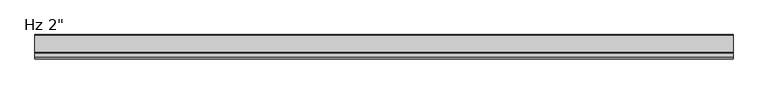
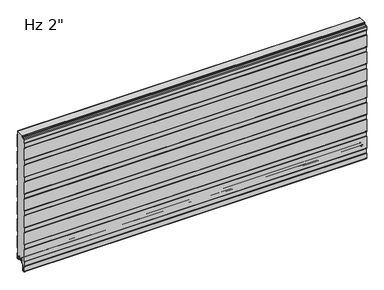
"""IFC4 building model written with IfcOpenShell, lengths in millimetres: plate geometry."""

from ifc_helpers import new_model, si_unit, point, frame, frame_2d, origin, place, context, project, spatial, polyline, circle_curve, trimmed, segment, composite_curve, outline, extrude, source, transform, mapped, element, save
from ifc_brep_helpers import plane_surface, cylinder_surface, revolved_surface, advanced_brep


def plate_3d0fb899(model_context):
    return source(origin(), model_context, "Body", "SolidModel", [
        extrude(outline(composite_curve([segment(trimmed(circle_curve(frame_2d((-22.5065589, 2.2313092)), 1.1999976), [point((-22.476037, 1.0316999))], [point((-21.3065623, 2.2328239))], True, "CARTESIAN"), True, "CONTINUOUS"), segment(polyline([(-21.3065623, 2.2328239), (-21.3065623, 5.9912173), (-22.7050411, 5.9912173), (-22.7050411, 8.6903283)]), True, "CONTINUOUS"), segment(trimmed(circle_curve(frame_2d((-26.0550364, 8.6903283)), 3.3499953), [point((-22.7050411, 8.6903283))], [point((-26.0550364, 12.0403236))], True, "CARTESIAN"), True, "CONTINUOUS"), segment(polyline([(-26.0550364, 12.0403236), (-30.4550276, 12.0403236)]), True, "CONTINUOUS"), segment(trimmed(circle_curve(frame_2d((-30.4550276, 8.6903283)), 3.3499953), [point((-30.4550276, 12.0403236))], [point((-33.8050229, 8.6903283))], True, "CARTESIAN"), True, "CONTINUOUS"), segment(polyline([(-33.8050229, 8.6903283), (-33.8050229, -3.1205608)]), True, "CONTINUOUS"), segment(trimmed(circle_curve(frame_2d((-35.5050175, -3.1205608)), 1.6999946), [point((-33.8050229, -3.1205608))], [point((-34.3029398, -4.3226385))], False, "CARTESIAN"), True, "CONTINUOUS"), segment(polyline([(-34.3029398, -4.3226385), (-39.8050109, -9.8247096), (-39.8050109, -31.9198392)]), True, "CONTINUOUS"), segment(trimmed(circle_curve(frame_2d((-42.5050035, -31.9198392)), 2.6999926), [point((-39.8050109, -31.9198392))], [point((-42.0236129, -34.5765709))], False, "CARTESIAN"), True, "CONTINUOUS"), segment(polyline([(-42.0236129, -34.5765709), (-47.0054338, -35.0125699)]), True, "CONTINUOUS"), segment(trimmed(circle_curve(frame_2d((-47.2295195, -32.4521176)), 2.5702393), [point((-47.0054338, -35.0125699))], [point((-49.7997587, -32.4521176))], False, "CARTESIAN"), True, "CONTINUOUS"), segment(polyline([(-49.7997587, -32.4521176), (-49.7997587, -10.4790962), (-48.5997902, -9.2791277), (-48.5997902, 10.4402849), (-49.8000209, 11.6405156), (-49.8000209, 65.7206473), (-48.5997902, 66.920878), (-48.5997902, 86.6402905), (-49.8000209, 87.8405213), (-49.8000209, 141.920653), (-48.5997902, 143.1208837), (-48.5997902, 162.8402962), (-49.8000209, 164.0405269), (-49.8000209, 218.1206587), (-48.5997902, 219.3208894), (-48.5997902, 239.0403019), (-49.8000209, 240.2405326), (-49.8000209, 294.3206644), (-48.5997902, 295.5208951), (-48.5997902, 315.2403076), (-49.8000209, 316.4405383), (-49.8000209, 370.5206701), (-48.5997902, 371.7209008), (-48.5997902, 391.4403133), (-49.8000209, 392.640544), (-49.8000209, 446.7206758), (-48.5997902, 447.9209065), (-48.5997902, 467.640319), (-49.8000209, 468.8405497), (-49.8000209, 522.9206815), (-48.5997902, 524.1209122), (-48.5997902, 543.8403247), (-49.805162, 545.0456965), (-49.805162, 561.1156233)]), True, "CONTINUOUS"), segment(trimmed(circle_curve(frame_2d((-47.8461404, 561.1156233)), 1.9590216), [point((-49.805162, 561.1156233))], [point((-48.0178238, 563.0671075))], False, "CARTESIAN"), True, "CONTINUOUS"), segment(polyline([(-48.0178238, 563.0671075), (-39.5591111, 563.821161)]), True, "CONTINUOUS"), segment(trimmed(circle_curve(frame_2d((-39.8231941, 566.8396267)), 3.0299959), [point((-39.5591111, 563.821161))], [point((-36.7958082, 566.9653654))], True, "CARTESIAN"), True, "CONTINUOUS"), segment(polyline([(-36.7958082, 566.9653654), (-36.7958082, 571.2), (-2.2065959, 571.2), (-2.2065959, 555.8186019), (-1.0063652, 554.4329689), (-1.0063652, 500.3795535), (-2.2065959, 498.9939206), (-2.2065959, 479.6187543), (-1.0063652, 478.2331213), (-1.0063652, 424.1797059), (-2.2065959, 422.794073), (-2.2065959, 403.4189067), (-1.0063652, 402.0332737), (-1.0063652, 347.9798583), (-2.2065959, 346.5942254), (-2.2065959, 327.2190591), (-1.0063652, 325.8334261), (-1.0063652, 271.7800107), (-2.2065959, 270.3943778), (-2.2065959, 251.0192115), (-1.0063652, 249.6335785), (-1.0063652, 195.5801631), (-2.2065959, 194.1945302), (-2.2065959, 174.8193639), (-1.0063652, 173.4337309), (-1.0063652, 119.3803155), (-2.2065959, 117.9946826), (-2.2065959, 98.6195163), (-1.0063652, 97.2338833), (-1.0063652, 43.1804679), (-2.2065959, 41.794835), (-2.2065959, 22.4196687), (-1.0063568, 21.034026), (-1.0063568, -3.4662506), (-5.2379042, -3.4662506)]), True, "CONTINUOUS"), segment(trimmed(circle_curve(frame_2d((-5.2379042, -1.6962564)), 1.7699942), [point((-5.2379042, -3.4662506))], [point((-7.0078983, -1.6962564))], False, "CARTESIAN"), True, "CONTINUOUS"), segment(polyline([(-7.0078983, -1.6962564), (-7.0078983, 8.7237222)]), True, "CONTINUOUS"), segment(trimmed(circle_curve(frame_2d((-10.3078942, 8.7237222)), 3.2999959), [point((-7.0078983, 8.7237222))], [point((-10.3078942, 12.023718))], True, "CARTESIAN"), True, "CONTINUOUS"), segment(polyline([(-10.3078942, 12.023718), (-14.7078854, 12.023718)]), True, "CONTINUOUS"), segment(trimmed(circle_curve(frame_2d((-14.7078854, 8.7237223)), 3.2999957), [point((-14.7078854, 12.023718))], [point((-18.0078811, 8.7237223))], True, "CARTESIAN"), True, "CONTINUOUS"), segment(polyline([(-18.0078811, 8.7237223), (-18.0078811, 6.0315125), (-19.0078757, 6.0315125), (-19.0078757, 2.0313089)]), True, "CONTINUOUS"), segment(trimmed(circle_curve(frame_2d((-18.0078785, 2.0313089)), 0.9999972), [point((-19.0078757, 2.0313089))], [point((-18.0078844, 1.0313117))], True, "CARTESIAN"), True, "CONTINUOUS"), segment(polyline([(-18.0078844, 1.0313117), (-19.0391961, 0.0), (-21.4443371, 0.0), (-22.476037, 1.0316999)]), True, "CONTINUOUS")], self_intersect=False)), frame((-730.0, 0.0, 0.0), z_axis=(1.0, 0.0, 0.0), x_axis=(0.0, 1.0, 0.0)), (0.0, 0.0, 1.0), 1460.0),
        advanced_brep(
        [(-730.0, -17.0015368, 2.0313088), (-730.0, -18.00154, 1.0313116), (-730.0, -19.0015313, 2.0313088), (-730.0, -19.0015314, 6.0315125), (-730.0, -18.0015368, 6.0315125), (-730.0, -18.0015368, 8.7237223), (-730.0, -14.7015411, 12.023718), (-730.0, -10.3015499, 12.023718), (-730.0, -7.0015544, 8.7237225), (-730.0, -7.0015544, -1.6962564), (-730.0, -5.2315602, -3.4662506), (-730.0, -1.0000126, -3.4662506), (-730.0, -1.0000126, 21.034026), (-730.0, -2.2002516, 22.4196686), (-730.0, -2.2002516, 41.7948349), (-730.0, -1.0000209, 43.1804679), (-730.0, -1.0000209, 97.2338833), (-730.0, -2.2002516, 98.6195162), (-730.0, -2.2002516, 117.9946825), (-730.0, -1.0000209, 119.3803155), (-730.0, -1.0000209, 173.4337309), (-730.0, -2.2002516, 174.8193638), (-730.0, -2.2002516, 194.1945301), (-730.0, -1.0000209, 195.5801631), (-730.0, -1.0000209, 249.6335785), (-730.0, -2.2002516, 251.0192114), (-730.0, -2.2002516, 270.3943777), (-730.0, -1.0000209, 271.7800107), (-730.0, -1.0000209, 325.8334261), (-730.0, -2.2002516, 327.219059), (-730.0, -2.2002516, 346.5942253), (-730.0, -1.0000209, 347.9798583), (-730.0, -1.0000209, 402.0332737), (-730.0, -2.2002516, 403.4189066), (-730.0, -2.2002516, 422.7940729), (-730.0, -1.0000209, 424.1797059), (-730.0, -1.0000209, 478.2331213), (-730.0, -2.2002516, 479.6187542), (-730.0, -2.2002516, 498.9939205), (-730.0, -1.0000209, 500.3795535), (-730.0, -1.0000209, 554.4329689), (-730.0, -2.2002516, 555.8186018), (-730.0, -2.2002516, 571.2), (-730.0, -1.2002516, 571.2), (-730.0, -1.2002516, 556.1914823), (-730.0, -0.3418094, 555.2004346), (-730.0, -2.09e-05, 554.2838177), (-730.0, -2.09e-05, 500.5287046), (-730.0, -0.3418094, 499.6120877), (-730.0, -1.2002516, 498.6210401), (-730.0, -1.2002516, 479.9916347), (-730.0, -0.3418094, 479.000587), (-730.0, -2.09e-05, 478.0839701), (-730.0, -2.09e-05, 424.328857), (-730.0, -0.3418094, 423.4122401), (-730.0, -1.2002516, 422.4211925), (-730.0, -1.2002516, 403.7917871), (-730.0, -0.3418094, 402.8007394), (-730.0, -2.09e-05, 401.8841225), (-730.0, -2.09e-05, 348.1290094), (-730.0, -0.3418094, 347.2123925), (-730.0, -1.2002516, 346.2213449), (-730.0, -1.2002516, 327.5919395), (-730.0, -0.3418094, 326.6008918), (-730.0, -2.09e-05, 325.6842749), (-730.0, -2.09e-05, 271.9291618), (-730.0, -0.3418094, 271.0125449), (-730.0, -1.2002516, 270.0214973), (-730.0, -1.2002516, 251.3920919), (-730.0, -0.3418094, 250.4010442), (-730.0, -2.09e-05, 249.4844273), (-730.0, -2.09e-05, 195.7293142), (-730.0, -0.3418094, 194.8126973), (-730.0, -1.2002516, 193.8216497), (-730.0, -1.2002516, 175.1922443), (-730.0, -0.3418094, 174.2011966), (-730.0, -2.09e-05, 173.2845797), (-730.0, -2.09e-05, 119.5294666), (-730.0, -0.3418094, 118.6128497), (-730.0, -1.2002516, 117.6218021), (-730.0, -1.2002516, 98.9923967), (-730.0, -0.3418094, 98.001349), (-730.0, -2.09e-05, 97.0847321), (-730.0, -2.09e-05, 43.329619), (-730.0, -0.3418094, 42.4130021), (-730.0, -1.2002516, 41.4219545), (-730.0, -1.2002516, 22.7925491), (-730.0, -0.3418094, 21.8015014), (-730.0, -2.09e-05, 20.8847931), (-730.0, -1.26e-05, -3.0662545), (-730.0, -1.4000087, -4.4662506), (-730.0, -5.2315602, -4.4662506), (-730.0, -8.0015544, -1.6962564), (-730.0, -8.0015544, 8.7237225), (-730.0, -10.3015499, 11.023718), (-730.0, -14.7015411, 11.023718), (-730.0, -17.0015368, 8.7237223), (730.0, -17.0015368, 2.0313088), (730.0, -17.0015368, 8.7237223), (730.0, -14.7015411, 11.023718), (730.0, -10.3015499, 11.023718), (730.0, -8.0015544, 8.7237225), (730.0, -8.0015544, -1.6962564), (730.0, -5.2315602, -4.4662506), (730.0, -1.4000087, -4.4662506), (730.0, -1.26e-05, -3.0662545), (730.0, -1.26e-05, 20.8848845), (730.0, -0.3418094, 21.8015014), (730.0, -1.2002516, 22.7925491), (730.0, -1.2002516, 41.4219545), (730.0, -0.3418094, 42.4130021), (730.0, -2.09e-05, 43.329619), (730.0, -2.09e-05, 97.0847321), (730.0, -0.3418094, 98.001349), (730.0, -1.2002516, 98.9923967), (730.0, -1.2002516, 117.6218021), (730.0, -0.3418094, 118.6128497), (730.0, -2.09e-05, 119.5294666), (730.0, -2.09e-05, 173.2845797), (730.0, -0.3418094, 174.2011966), (730.0, -1.2002516, 175.1922443), (730.0, -1.2002516, 193.8216497), (730.0, -0.3418094, 194.8126973), (730.0, -2.09e-05, 195.7293142), (730.0, -2.09e-05, 249.4844273), (730.0, -0.3418094, 250.4010442), (730.0, -1.2002516, 251.3920919), (730.0, -1.2002516, 270.0214973), (730.0, -0.3418094, 271.0125449), (730.0, -2.09e-05, 271.9291618), (730.0, -2.09e-05, 325.6842749), (730.0, -0.3418094, 326.6008918), (730.0, -1.2002516, 327.5919395), (730.0, -1.2002516, 346.2213449), (730.0, -0.3418094, 347.2123925), (730.0, -2.09e-05, 348.1290094), (730.0, -2.09e-05, 401.8841225), (730.0, -0.3418094, 402.8007394), (730.0, -1.2002516, 403.7917871), (730.0, -1.2002516, 422.4211925), (730.0, -0.3418094, 423.4122401), (730.0, -2.09e-05, 424.328857), (730.0, -2.09e-05, 478.0839701), (730.0, -0.3418094, 479.000587), (730.0, -1.2002516, 479.9916347), (730.0, -1.2002516, 498.6210401), (730.0, -0.3418094, 499.6120877), (730.0, -2.09e-05, 500.5287046), (730.0, -2.09e-05, 554.2838177), (730.0, -0.3418094, 555.2004346), (730.0, -1.2002516, 556.1914823), (730.0, -1.2002516, 571.2), (730.0, -2.2002516, 571.2), (730.0, -2.2002516, 555.8186018), (730.0, -1.0000209, 554.4329689), (730.0, -1.0000209, 500.3795535), (730.0, -2.2002516, 498.9939205), (730.0, -2.2002516, 479.6187542), (730.0, -1.0000209, 478.2331213), (730.0, -1.0000209, 424.1797059), (730.0, -2.2002516, 422.7940729), (730.0, -2.2002516, 403.4189066), (730.0, -1.0000209, 402.0332737), (730.0, -1.0000209, 347.9798583), (730.0, -2.2002516, 346.5942253), (730.0, -2.2002516, 327.219059), (730.0, -1.0000209, 325.8334261), (730.0, -1.0000209, 271.7800107), (730.0, -2.2002516, 270.3943777), (730.0, -2.2002516, 251.0192114), (730.0, -1.0000209, 249.6335785), (730.0, -1.0000209, 195.5801631), (730.0, -2.2002516, 194.1945301), (730.0, -2.2002516, 174.8193638), (730.0, -1.0000209, 173.4337309), (730.0, -1.0000209, 119.3803155), (730.0, -2.2002516, 117.9946825), (730.0, -2.2002516, 98.6195162), (730.0, -1.0000209, 97.2338833), (730.0, -1.0000209, 43.1804679), (730.0, -2.2002516, 41.7948349), (730.0, -2.2002516, 22.4196686), (730.0, -1.0000126, 21.034026), (730.0, -1.0000126, -3.4662506), (730.0, -5.2315602, -3.4662506), (730.0, -7.0015544, -1.6962564), (730.0, -7.0015544, 8.7237225), (730.0, -10.3015499, 12.023718), (730.0, -14.7015411, 12.023718), (730.0, -18.0015368, 8.7237223), (730.0, -18.0015368, 6.0315125), (730.0, -19.0015314, 6.0315125), (730.0, -19.0015314, 2.0313088), (730.0, -18.00154, 1.0313116)],
        [
            (0, 1, circle_curve(frame((-730.0, -18.0015341, 2.0313088), z_axis=(-1.0, 0.0, 0.0), x_axis=(0.0, 0.0, 1.0)), 0.9999973)),
            (1, 2, circle_curve(frame((-730.0, -18.0015341, 2.0313088), z_axis=(-1.0, 0.0, 0.0), x_axis=(0.0, 0.0, 1.0)), 0.9999972)),
            (2, 3),
            (3, 4),
            (4, 5),
            (5, 6, circle_curve(frame((-730.0, -14.7015411, 8.7237223), z_axis=(-1.0, 0.0, 0.0), x_axis=(0.0, 0.0, 1.0)), 3.2999957)),
            (6, 7),
            (7, 8, circle_curve(frame((-730.0, -10.3015499, 8.7237225), z_axis=(-1.0, 0.0, 0.0), x_axis=(0.0, 0.0, 1.0)), 3.2999955)),
            (8, 9),
            (9, 10, circle_curve(frame((-730.0, -5.2315602, -1.6962564), z_axis=(1.0, 0.0, 0.0), x_axis=(0.0, 0.0, 1.0)), 1.7699942)),
            (10, 11),
            (11, 12),
            (12, 13),
            (13, 14),
            (14, 15),
            (15, 16),
            (16, 17),
            (17, 18),
            (18, 19),
            (19, 20),
            (20, 21),
            (21, 22),
            (22, 23),
            (23, 24),
            (24, 25),
            (25, 26),
            (26, 27),
            (27, 28),
            (28, 29),
            (29, 30),
            (30, 31),
            (31, 32),
            (32, 33),
            (33, 34),
            (34, 35),
            (35, 36),
            (36, 37),
            (37, 38),
            (38, 39),
            (39, 40),
            (40, 41),
            (41, 42),
            (42, 43),
            (43, 44),
            (44, 45),
            (45, 46, circle_curve(frame((-730.0, -1.4000181, 554.2838177), z_axis=(-1.0, 0.0, 0.0), x_axis=(0.0, 0.0, 1.0)), 1.3999972)),
            (46, 47),
            (47, 48, circle_curve(frame((-730.0, -1.4000181, 500.5287046), z_axis=(-1.0, 0.0, 0.0), x_axis=(0.0, 0.0, 1.0)), 1.3999972)),
            (48, 49),
            (49, 50),
            (50, 51),
            (51, 52, circle_curve(frame((-730.0, -1.4000181, 478.0839701), z_axis=(-1.0, 0.0, 0.0), x_axis=(0.0, 0.0, 1.0)), 1.3999972)),
            (52, 53),
            (53, 54, circle_curve(frame((-730.0, -1.4000181, 424.328857), z_axis=(-1.0, 0.0, 0.0), x_axis=(0.0, 0.0, 1.0)), 1.3999972)),
            (54, 55),
            (55, 56),
            (56, 57),
            (57, 58, circle_curve(frame((-730.0, -1.4000181, 401.8841225), z_axis=(-1.0, 0.0, 0.0), x_axis=(0.0, 0.0, 1.0)), 1.3999972)),
            (58, 59),
            (59, 60, circle_curve(frame((-730.0, -1.4000181, 348.1290094), z_axis=(-1.0, 0.0, 0.0), x_axis=(0.0, 0.0, 1.0)), 1.3999972)),
            (60, 61),
            (61, 62),
            (62, 63),
            (63, 64, circle_curve(frame((-730.0, -1.4000181, 325.6842749), z_axis=(-1.0, 0.0, 0.0), x_axis=(0.0, 0.0, 1.0)), 1.3999972)),
            (64, 65),
            (65, 66, circle_curve(frame((-730.0, -1.4000181, 271.9291618), z_axis=(-1.0, 0.0, 0.0), x_axis=(0.0, 0.0, 1.0)), 1.3999972)),
            (66, 67),
            (67, 68),
            (68, 69),
            (69, 70, circle_curve(frame((-730.0, -1.4000181, 249.4844273), z_axis=(-1.0, 0.0, 0.0), x_axis=(0.0, 0.0, 1.0)), 1.3999972)),
            (70, 71),
            (71, 72, circle_curve(frame((-730.0, -1.4000181, 195.7293142), z_axis=(-1.0, 0.0, 0.0), x_axis=(0.0, 0.0, 1.0)), 1.3999972)),
            (72, 73),
            (73, 74),
            (74, 75),
            (75, 76, circle_curve(frame((-730.0, -1.4000181, 173.2845797), z_axis=(-1.0, 0.0, 0.0), x_axis=(0.0, 0.0, 1.0)), 1.3999972)),
            (76, 77),
            (77, 78, circle_curve(frame((-730.0, -1.4000181, 119.5294666), z_axis=(-1.0, 0.0, 0.0), x_axis=(0.0, 0.0, 1.0)), 1.3999972)),
            (78, 79),
            (79, 80),
            (80, 81),
            (81, 82, circle_curve(frame((-730.0, -1.4000181, 97.0847321), z_axis=(-1.0, 0.0, 0.0), x_axis=(0.0, 0.0, 1.0)), 1.3999972)),
            (82, 83),
            (83, 84, circle_curve(frame((-730.0, -1.4000181, 43.329619), z_axis=(-1.0, 0.0, 0.0), x_axis=(0.0, 0.0, 1.0)), 1.3999972)),
            (84, 85),
            (85, 86),
            (86, 87),
            (87, 88, circle_curve(frame((-730.0, -1.4000181, 20.8848845), z_axis=(-1.0, 0.0, 0.0), x_axis=(0.0, 0.0, 1.0)), 1.3999972)),
            (88, 89),
            (89, 90, circle_curve(frame((-730.0, -1.4000087, -3.0662545), z_axis=(-1.0, 0.0, 0.0), x_axis=(0.0, 0.0, 1.0)), 1.3999962)),
            (90, 91),
            (91, 92, circle_curve(frame((-730.0, -5.2315602, -1.6962564), z_axis=(-1.0, 0.0, 0.0), x_axis=(0.0, 0.0, 1.0)), 2.7699942)),
            (92, 93),
            (93, 94, circle_curve(frame((-730.0, -10.3015499, 8.7237225), z_axis=(1.0, 0.0, 0.0), x_axis=(0.0, 0.0, 1.0)), 2.2999955)),
            (94, 95),
            (95, 96, circle_curve(frame((-730.0, -14.7015411, 8.7237223), z_axis=(1.0, 0.0, 0.0), x_axis=(0.0, 0.0, 1.0)), 2.2999957)),
            (96, 0),
            (97, 98),
            (98, 99, circle_curve(frame((730.0, -14.7015411, 8.7237223), z_axis=(-1.0, 0.0, 0.0), x_axis=(0.0, 0.0, 1.0)), 2.2999957)),
            (99, 100),
            (100, 101, circle_curve(frame((730.0, -10.3015499, 8.7237225), z_axis=(-1.0, 0.0, 0.0), x_axis=(0.0, 0.0, 1.0)), 2.2999955)),
            (101, 102),
            (102, 103, circle_curve(frame((730.0, -5.2315602, -1.6962564), z_axis=(1.0, 0.0, 0.0), x_axis=(0.0, 0.0, 1.0)), 2.7699942)),
            (103, 104),
            (104, 105, circle_curve(frame((730.0, -1.4000087, -3.0662545), z_axis=(1.0, 0.0, 0.0), x_axis=(0.0, 0.0, 1.0)), 1.3999962)),
            (105, 106),
            (106, 107, circle_curve(frame((730.0, -1.4000181, 20.8848845), z_axis=(1.0, 0.0, 0.0), x_axis=(0.0, 0.0, 1.0)), 1.3999972)),
            (107, 108),
            (108, 109),
            (109, 110),
            (110, 111, circle_curve(frame((730.0, -1.4000181, 43.329619), z_axis=(1.0, 0.0, 0.0), x_axis=(0.0, 0.0, 1.0)), 1.3999972)),
            (111, 112),
            (112, 113, circle_curve(frame((730.0, -1.4000181, 97.0847321), z_axis=(1.0, 0.0, 0.0), x_axis=(0.0, 0.0, 1.0)), 1.3999972)),
            (113, 114),
            (114, 115),
            (115, 116),
            (116, 117, circle_curve(frame((730.0, -1.4000181, 119.5294666), z_axis=(1.0, 0.0, 0.0), x_axis=(0.0, 0.0, 1.0)), 1.3999972)),
            (117, 118),
            (118, 119, circle_curve(frame((730.0, -1.4000181, 173.2845797), z_axis=(1.0, 0.0, 0.0), x_axis=(0.0, 0.0, 1.0)), 1.3999972)),
            (119, 120),
            (120, 121),
            (121, 122),
            (122, 123, circle_curve(frame((730.0, -1.4000181, 195.7293142), z_axis=(1.0, 0.0, 0.0), x_axis=(0.0, 0.0, 1.0)), 1.3999972)),
            (123, 124),
            (124, 125, circle_curve(frame((730.0, -1.4000181, 249.4844273), z_axis=(1.0, 0.0, 0.0), x_axis=(0.0, 0.0, 1.0)), 1.3999972)),
            (125, 126),
            (126, 127),
            (127, 128),
            (128, 129, circle_curve(frame((730.0, -1.4000181, 271.9291618), z_axis=(1.0, 0.0, 0.0), x_axis=(0.0, 0.0, 1.0)), 1.3999972)),
            (129, 130),
            (130, 131, circle_curve(frame((730.0, -1.4000181, 325.6842749), z_axis=(1.0, 0.0, 0.0), x_axis=(0.0, 0.0, 1.0)), 1.3999972)),
            (131, 132),
            (132, 133),
            (133, 134),
            (134, 135, circle_curve(frame((730.0, -1.4000181, 348.1290094), z_axis=(1.0, 0.0, 0.0), x_axis=(0.0, 0.0, 1.0)), 1.3999972)),
            (135, 136),
            (136, 137, circle_curve(frame((730.0, -1.4000181, 401.8841225), z_axis=(1.0, 0.0, 0.0), x_axis=(0.0, 0.0, 1.0)), 1.3999972)),
            (137, 138),
            (138, 139),
            (139, 140),
            (140, 141, circle_curve(frame((730.0, -1.4000181, 424.328857), z_axis=(1.0, 0.0, 0.0), x_axis=(0.0, 0.0, 1.0)), 1.3999972)),
            (141, 142),
            (142, 143, circle_curve(frame((730.0, -1.4000181, 478.0839701), z_axis=(1.0, 0.0, 0.0), x_axis=(0.0, 0.0, 1.0)), 1.3999972)),
            (143, 144),
            (144, 145),
            (145, 146),
            (146, 147, circle_curve(frame((730.0, -1.4000181, 500.5287046), z_axis=(1.0, 0.0, 0.0), x_axis=(0.0, 0.0, 1.0)), 1.3999972)),
            (147, 148),
            (148, 149, circle_curve(frame((730.0, -1.4000181, 554.2838177), z_axis=(1.0, 0.0, 0.0), x_axis=(0.0, 0.0, 1.0)), 1.3999972)),
            (149, 150),
            (150, 151),
            (151, 152),
            (152, 153),
            (153, 154),
            (154, 155),
            (155, 156),
            (156, 157),
            (157, 158),
            (158, 159),
            (159, 160),
            (160, 161),
            (161, 162),
            (162, 163),
            (163, 164),
            (164, 165),
            (165, 166),
            (166, 167),
            (167, 168),
            (168, 169),
            (169, 170),
            (170, 171),
            (171, 172),
            (172, 173),
            (173, 174),
            (174, 175),
            (175, 176),
            (176, 177),
            (177, 178),
            (178, 179),
            (179, 180),
            (180, 181),
            (181, 182),
            (182, 183),
            (183, 184),
            (184, 185, circle_curve(frame((730.0, -5.2315602, -1.6962564), z_axis=(-1.0, 0.0, 0.0), x_axis=(0.0, 0.0, 1.0)), 1.7699942)),
            (185, 186),
            (186, 187, circle_curve(frame((730.0, -10.3015499, 8.7237225), z_axis=(1.0, 0.0, 0.0), x_axis=(0.0, 0.0, 1.0)), 3.2999955)),
            (187, 188),
            (188, 189, circle_curve(frame((730.0, -14.7015411, 8.7237223), z_axis=(1.0, 0.0, 0.0), x_axis=(0.0, 0.0, 1.0)), 3.2999957)),
            (189, 190),
            (190, 191),
            (191, 192),
            (192, 193, circle_curve(frame((730.0, -18.0015341, 2.0313088), z_axis=(1.0, 0.0, 0.0), x_axis=(0.0, 0.0, 1.0)), 0.9999972)),
            (193, 97, circle_curve(frame((730.0, -18.0015341, 2.0313088), z_axis=(1.0, 0.0, 0.0), x_axis=(0.0, 0.0, 1.0)), 0.9999973)),
            (96, 98),
            (97, 0),
            (95, 99),
            (94, 100),
            (93, 101),
            (92, 102),
            (91, 103),
            (90, 104),
            (89, 105),
            (88, 106),
            (70, 124),
            (123, 71),
            (87, 107),
            (86, 108),
            (85, 109),
            (83, 111),
            (110, 84),
            (81, 113),
            (112, 82),
            (66, 128),
            (127, 67),
            (122, 72),
            (121, 73),
            (76, 118),
            (117, 77),
            (69, 125),
            (68, 126),
            (65, 129),
            (116, 78),
            (79, 115),
            (114, 80),
            (75, 119),
            (74, 120),
            (2, 192),
            (191, 3),
            (1, 193),
            (64, 130),
            (63, 131),
            (62, 132),
            (61, 133),
            (60, 134),
            (59, 135),
            (58, 136),
            (31, 163),
            (162, 32),
            (30, 164),
            (29, 165),
            (28, 166),
            (27, 167),
            (26, 168),
            (25, 169),
            (24, 170),
            (23, 171),
            (22, 172),
            (21, 173),
            (20, 174),
            (19, 175),
            (18, 176),
            (17, 177),
            (16, 178),
            (15, 179),
            (14, 180),
            (13, 181),
            (12, 182),
            (11, 183),
            (10, 184),
            (9, 185),
            (8, 186),
            (7, 187),
            (6, 188),
            (5, 189),
            (4, 190),
            (42, 152),
            (151, 43),
            (55, 139),
            (138, 56),
            (54, 140),
            (52, 142),
            (141, 53),
            (49, 145),
            (144, 50),
            (48, 146),
            (46, 148),
            (147, 47),
            (44, 150),
            (149, 45),
            (35, 159),
            (158, 36),
            (34, 160),
            (33, 161),
            (57, 137),
            (51, 143),
            (41, 153),
            (40, 154),
            (39, 155),
            (38, 156),
            (37, 157),
        ],
        [
            plane_surface(frame((-730.0, -2.09e-05, 304.8), z_axis=(-1.0, 0.0, 0.0), x_axis=(0.0, 1.0, 0.0))),
            plane_surface(frame((730.0, -2.09e-05, 304.8), z_axis=(1.0, 0.0, 0.0), x_axis=(0.0, 1.0, 0.0))),
            plane_surface(frame((-730.0, -17.0015368, 2.0313088), z_axis=(0.0, 1.0, 0.0), x_axis=(1.0, 0.0, 0.0))),
            revolved_surface(polyline([(730.0, -14.7015411, 11.023718), (-730.0, -14.7015411, 11.023718)]), (-730.0, -14.7015411, 8.7237223), (1.0, 0.0, 0.0)),
            plane_surface(frame((-730.0, -14.7015411, 11.023718), z_axis=(0.0, 0.0, -1.0), x_axis=(1.0, 0.0, 0.0))),
            revolved_surface(polyline([(730.0, -10.3015499, 11.023717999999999), (-730.0, -10.3015499, 11.023717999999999)]), (-730.0, -10.3015499, 8.7237225), (1.0, 0.0, 0.0)),
            plane_surface(frame((-730.0, -8.0015544, 8.7237225), z_axis=(0.0, -1.0, 0.0), x_axis=(1.0, 0.0, 0.0))),
            cylinder_surface(frame((-730.0, -5.2315602, -1.6962564), z_axis=(-1.0, 0.0, 0.0), x_axis=(0.0, 0.0, 1.0)), 2.7699942),
            plane_surface(frame((-730.0, -5.2315602, -4.4662506), z_axis=(0.0, 0.0, -1.0), x_axis=(1.0, 0.0, 0.0))),
            cylinder_surface(frame((-730.0, -1.4000087, -3.0662545), z_axis=(-1.0, 0.0, 0.0), x_axis=(0.0, 0.0, 1.0)), 1.3999962),
            plane_surface(frame((-730.0, -1.26e-05, -3.0662545), z_axis=(0.0, 1.0, 0.0), x_axis=(1.0, 0.0, 0.0))),
            plane_surface(frame((-730.0, -2.09e-05, 195.7293142), z_axis=(0.0, 1.0, 0.0), x_axis=(1.0, 0.0, 0.0))),
            cylinder_surface(frame((-730.0, -1.4000181, 20.8848845), z_axis=(-1.0, 0.0, 0.0), x_axis=(0.0, 0.0, 1.0)), 1.3999972),
            plane_surface(frame((-730.0, -0.3418094, 21.8015014), z_axis=(0.0, 0.755864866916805, 0.6547276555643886), x_axis=(1.0, 0.0, 0.0))),
            plane_surface(frame((-730.0, -1.2002516, 32.1072518), z_axis=(0.0, 1.0, 0.0), x_axis=(1.0, 0.0, 0.0))),
            cylinder_surface(frame((-730.0, -1.4000181, 43.329619), z_axis=(-1.0, 0.0, 0.0), x_axis=(0.0, 0.0, 1.0)), 1.3999972),
            plane_surface(frame((-730.0, -1.2002516, 41.4219545), z_axis=(0.0, 0.755864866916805, -0.6547276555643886), x_axis=(1.0, 0.0, 0.0))),
            cylinder_surface(frame((-730.0, -1.4000181, 97.0847321), z_axis=(-1.0, 0.0, 0.0), x_axis=(0.0, 0.0, 1.0)), 1.3999972),
            plane_surface(frame((-730.0, -1.2002516, 270.0214973), z_axis=(0.0, 0.755864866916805, -0.6547276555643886), x_axis=(1.0, 0.0, 0.0))),
            cylinder_surface(frame((-730.0, -1.4000181, 195.7293142), z_axis=(-1.0, 0.0, 0.0), x_axis=(0.0, 0.0, 1.0)), 1.3999972),
            plane_surface(frame((-730.0, -1.2002516, 193.8216497), z_axis=(0.0, 0.755864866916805, -0.6547276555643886), x_axis=(1.0, 0.0, 0.0))),
            plane_surface(frame((-730.0, -2.09e-05, 119.5294666), z_axis=(0.0, 1.0, 0.0), x_axis=(1.0, 0.0, 0.0))),
            cylinder_surface(frame((-730.0, -1.4000181, 249.4844273), z_axis=(-1.0, 0.0, 0.0), x_axis=(0.0, 0.0, 1.0)), 1.3999972),
            plane_surface(frame((-730.0, -0.3418094, 250.4010442), z_axis=(0.0, 0.755864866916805, 0.6547276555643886), x_axis=(1.0, 0.0, 0.0))),
            plane_surface(frame((-730.0, -1.2002516, 260.7067946), z_axis=(0.0, 1.0, 0.0), x_axis=(1.0, 0.0, 0.0))),
            cylinder_surface(frame((-730.0, -1.4000181, 271.9291618), z_axis=(-1.0, 0.0, 0.0), x_axis=(0.0, 0.0, 1.0)), 1.3999972),
            cylinder_surface(frame((-730.0, -1.4000181, 119.5294666), z_axis=(-1.0, 0.0, 0.0), x_axis=(0.0, 0.0, 1.0)), 1.3999972),
            plane_surface(frame((-730.0, -1.2002516, 108.3070994), z_axis=(0.0, 1.0, 0.0), x_axis=(1.0, 0.0, 0.0))),
            plane_surface(frame((-730.0, -0.3418094, 98.001349), z_axis=(0.0, 0.755864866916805, 0.6547276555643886), x_axis=(1.0, 0.0, 0.0))),
            plane_surface(frame((-730.0, -1.2002516, 117.6218021), z_axis=(0.0, 0.755864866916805, -0.6547276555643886), x_axis=(1.0, 0.0, 0.0))),
            plane_surface(frame((-730.0, -2.09e-05, 43.329619), z_axis=(0.0, 1.0, 0.0), x_axis=(1.0, 0.0, 0.0))),
            cylinder_surface(frame((-730.0, -1.4000181, 173.2845797), z_axis=(-1.0, 0.0, 0.0), x_axis=(0.0, 0.0, 1.0)), 1.3999972),
            plane_surface(frame((-730.0, -0.3418094, 174.2011966), z_axis=(0.0, 0.755864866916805, 0.6547276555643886), x_axis=(1.0, 0.0, 0.0))),
            plane_surface(frame((-730.0, -1.2002516, 184.506947), z_axis=(0.0, 1.0, 0.0), x_axis=(1.0, 0.0, 0.0))),
            plane_surface(frame((-730.0, -19.0015314, 6.0315125), z_axis=(0.0, -1.0, 0.0), x_axis=(1.0, 0.0, 0.0))),
            cylinder_surface(frame((-730.0, -18.0015341, 2.0313088), z_axis=(-1.0, 0.0, 0.0), x_axis=(0.0, 0.0, 1.0)), 0.9999972),
            cylinder_surface(frame((-730.0, -18.0015341, 2.0313088), z_axis=(-1.0, 0.0, 0.0), x_axis=(0.0, 0.0, 1.0)), 0.9999973),
            plane_surface(frame((-730.0, -2.09e-05, 271.9291618), z_axis=(0.0, 1.0, 0.0), x_axis=(1.0, 0.0, 0.0))),
            cylinder_surface(frame((-730.0, -1.4000181, 325.6842749), z_axis=(-1.0, 0.0, 0.0), x_axis=(0.0, 0.0, 1.0)), 1.3999972),
            plane_surface(frame((-730.0, -0.3418094, 326.6008918), z_axis=(0.0, 0.755864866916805, 0.6547276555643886), x_axis=(1.0, 0.0, 0.0))),
            plane_surface(frame((-730.0, -1.2002516, 336.9066422), z_axis=(0.0, 1.0, 0.0), x_axis=(1.0, 0.0, 0.0))),
            plane_surface(frame((-730.0, -1.2002516, 346.2213449), z_axis=(0.0, 0.755864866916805, -0.6547276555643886), x_axis=(1.0, 0.0, 0.0))),
            cylinder_surface(frame((-730.0, -1.4000181, 348.1290094), z_axis=(-1.0, 0.0, 0.0), x_axis=(0.0, 0.0, 1.0)), 1.3999972),
            plane_surface(frame((-730.0, -2.09e-05, 348.1290094), z_axis=(0.0, 1.0, 0.0), x_axis=(1.0, 0.0, 0.0))),
            plane_surface(frame((-730.0, -1.0000209, 402.0332737), z_axis=(0.0, -1.0, 0.0), x_axis=(1.0, 0.0, 0.0))),
            plane_surface(frame((-730.0, -1.0000209, 347.9798583), z_axis=(0.0, -0.755864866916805, 0.6547276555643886), x_axis=(1.0, 0.0, 0.0))),
            plane_surface(frame((-730.0, -2.2002516, 346.5942253), z_axis=(0.0, -1.0, 0.0), x_axis=(1.0, 0.0, 0.0))),
            plane_surface(frame((-730.0, -2.2002516, 327.219059), z_axis=(0.0, -0.755864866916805, -0.6547276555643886), x_axis=(1.0, 0.0, 0.0))),
            plane_surface(frame((-730.0, -1.0000209, 325.8334261), z_axis=(0.0, -1.0, 0.0), x_axis=(1.0, 0.0, 0.0))),
            plane_surface(frame((-730.0, -1.0000209, 271.7800107), z_axis=(0.0, -0.755864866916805, 0.6547276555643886), x_axis=(1.0, 0.0, 0.0))),
            plane_surface(frame((-730.0, -2.2002516, 270.3943777), z_axis=(0.0, -1.0, 0.0), x_axis=(1.0, 0.0, 0.0))),
            plane_surface(frame((-730.0, -2.2002516, 251.0192114), z_axis=(0.0, -0.755864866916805, -0.6547276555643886), x_axis=(1.0, 0.0, 0.0))),
            plane_surface(frame((-730.0, -1.0000209, 249.6335785), z_axis=(0.0, -1.0, 0.0), x_axis=(1.0, 0.0, 0.0))),
            plane_surface(frame((-730.0, -1.0000209, 195.5801631), z_axis=(0.0, -0.755864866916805, 0.6547276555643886), x_axis=(1.0, 0.0, 0.0))),
            plane_surface(frame((-730.0, -2.2002516, 194.1945301), z_axis=(0.0, -1.0, 0.0), x_axis=(1.0, 0.0, 0.0))),
            plane_surface(frame((-730.0, -2.2002516, 174.8193638), z_axis=(0.0, -0.755864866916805, -0.6547276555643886), x_axis=(1.0, 0.0, 0.0))),
            plane_surface(frame((-730.0, -1.0000209, 173.4337309), z_axis=(0.0, -1.0, 0.0), x_axis=(1.0, 0.0, 0.0))),
            plane_surface(frame((-730.0, -1.0000209, 119.3803155), z_axis=(0.0, -0.755864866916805, 0.6547276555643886), x_axis=(1.0, 0.0, 0.0))),
            plane_surface(frame((-730.0, -2.2002516, 117.9946825), z_axis=(0.0, -1.0, 0.0), x_axis=(1.0, 0.0, 0.0))),
            plane_surface(frame((-730.0, -2.2002516, 98.6195162), z_axis=(0.0, -0.755864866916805, -0.6547276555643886), x_axis=(1.0, 0.0, 0.0))),
            plane_surface(frame((-730.0, -1.0000209, 97.2338833), z_axis=(0.0, -1.0, 0.0), x_axis=(1.0, 0.0, 0.0))),
            plane_surface(frame((-730.0, -1.0000209, 43.1804679), z_axis=(0.0, -0.755864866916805, 0.6547276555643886), x_axis=(1.0, 0.0, 0.0))),
            plane_surface(frame((-730.0, -2.2002516, 41.7948349), z_axis=(0.0, -1.0, 0.0), x_axis=(1.0, 0.0, 0.0))),
            plane_surface(frame((-730.0, -2.2002516, 22.4196686), z_axis=(0.0, -0.755864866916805, -0.6547276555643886), x_axis=(1.0, 0.0, 0.0))),
            plane_surface(frame((-730.0, -1.0000126, 21.034026), z_axis=(0.0, -1.0, 0.0), x_axis=(1.0, 0.0, 0.0))),
            plane_surface(frame((-730.0, -1.0000126, -3.4662506), z_axis=(0.0, 0.0, 1.0), x_axis=(1.0, 0.0, 0.0))),
            revolved_surface(polyline([(730.0, -5.2315602, 0.07373779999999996), (-730.0, -5.2315602, 0.07373779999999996)]), (-730.0, -5.2315602, -1.6962564), (1.0, 0.0, 0.0)),
            plane_surface(frame((-730.0, -7.0015544, -1.6962564), z_axis=(0.0, 1.0, 0.0), x_axis=(1.0, 0.0, 0.0))),
            cylinder_surface(frame((-730.0, -10.3015499, 8.7237225), z_axis=(-1.0, 0.0, 0.0), x_axis=(0.0, 0.0, 1.0)), 3.2999955),
            plane_surface(frame((-730.0, -10.3015499, 12.023718), z_axis=(0.0, 0.0, 1.0), x_axis=(1.0, 0.0, 0.0))),
            cylinder_surface(frame((-730.0, -14.7015411, 8.7237223), z_axis=(-1.0, 0.0, 0.0), x_axis=(0.0, 0.0, 1.0)), 3.2999957),
            plane_surface(frame((-730.0, -18.0015368, 8.7237223), z_axis=(0.0, -1.0, 0.0), x_axis=(1.0, 0.0, 0.0))),
            plane_surface(frame((-730.0, -18.0015368, 6.0315125), z_axis=(0.0, 0.0, 1.0), x_axis=(1.0, 0.0, 0.0))),
            plane_surface(frame((730.0, 9.9999791, 571.2), z_axis=(0.0, 0.0, 1.0), x_axis=(-1.0, 0.0, 0.0))),
            plane_surface(frame((-730.0, -1.2002516, 413.1064898), z_axis=(0.0, 1.0, 0.0), x_axis=(1.0, 0.0, 0.0))),
            plane_surface(frame((-730.0, -1.2002516, 422.4211925), z_axis=(0.0, 0.755864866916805, -0.6547276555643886), x_axis=(1.0, 0.0, 0.0))),
            plane_surface(frame((-730.0, -2.09e-05, 424.328857), z_axis=(0.0, 1.0, 0.0), x_axis=(1.0, 0.0, 0.0))),
            plane_surface(frame((-730.0, -1.2002516, 489.3063374), z_axis=(0.0, 1.0, 0.0), x_axis=(1.0, 0.0, 0.0))),
            plane_surface(frame((-730.0, -1.2002516, 498.6210401), z_axis=(0.0, 0.755864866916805, -0.6547276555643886), x_axis=(1.0, 0.0, 0.0))),
            plane_surface(frame((-730.0, -2.09e-05, 500.5287046), z_axis=(0.0, 1.0, 0.0), x_axis=(1.0, 0.0, 0.0))),
            plane_surface(frame((-730.0, -0.3418094, 555.2004346), z_axis=(0.0, 0.755864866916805, 0.6547276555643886), x_axis=(1.0, 0.0, 0.0))),
            plane_surface(frame((-730.0, -1.0000209, 478.2331213), z_axis=(0.0, -1.0, 0.0), x_axis=(1.0, 0.0, 0.0))),
            plane_surface(frame((-730.0, -1.0000209, 424.1797059), z_axis=(0.0, -0.755864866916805, 0.6547276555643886), x_axis=(1.0, 0.0, 0.0))),
            plane_surface(frame((-730.0, -2.2002516, 422.7940729), z_axis=(0.0, -1.0, 0.0), x_axis=(1.0, 0.0, 0.0))),
            plane_surface(frame((-730.0, -2.2002516, 403.4189066), z_axis=(0.0, -0.755864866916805, -0.6547276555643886), x_axis=(1.0, 0.0, 0.0))),
            cylinder_surface(frame((-730.0, -1.4000181, 401.8841225), z_axis=(-1.0, 0.0, 0.0), x_axis=(0.0, 0.0, 1.0)), 1.3999972),
            plane_surface(frame((-730.0, -0.3418094, 402.8007394), z_axis=(0.0, 0.755864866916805, 0.6547276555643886), x_axis=(1.0, 0.0, 0.0))),
            cylinder_surface(frame((-730.0, -1.4000181, 424.328857), z_axis=(-1.0, 0.0, 0.0), x_axis=(0.0, 0.0, 1.0)), 1.3999972),
            cylinder_surface(frame((-730.0, -1.4000181, 478.0839701), z_axis=(-1.0, 0.0, 0.0), x_axis=(0.0, 0.0, 1.0)), 1.3999972),
            plane_surface(frame((-730.0, -0.3418094, 479.000587), z_axis=(0.0, 0.755864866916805, 0.6547276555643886), x_axis=(1.0, 0.0, 0.0))),
            cylinder_surface(frame((-730.0, -1.4000181, 500.5287046), z_axis=(-1.0, 0.0, 0.0), x_axis=(0.0, 0.0, 1.0)), 1.3999972),
            cylinder_surface(frame((-730.0, -1.4000181, 554.2838177), z_axis=(-1.0, 0.0, 0.0), x_axis=(0.0, 0.0, 1.0)), 1.3999972),
            plane_surface(frame((-730.0, -1.2002516, 565.506185), z_axis=(0.0, 1.0, 0.0), x_axis=(1.0, 0.0, 0.0))),
            plane_surface(frame((-730.0, -2.2002516, 575.1937681), z_axis=(0.0, -1.0, 0.0), x_axis=(1.0, 0.0, 0.0))),
            plane_surface(frame((-730.0, -2.2002516, 555.8186018), z_axis=(0.0, -0.755864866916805, -0.6547276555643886), x_axis=(1.0, 0.0, 0.0))),
            plane_surface(frame((-730.0, -1.0000209, 554.4329689), z_axis=(0.0, -1.0, 0.0), x_axis=(1.0, 0.0, 0.0))),
            plane_surface(frame((-730.0, -1.0000209, 500.3795535), z_axis=(0.0, -0.755864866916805, 0.6547276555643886), x_axis=(1.0, 0.0, 0.0))),
            plane_surface(frame((-730.0, -2.2002516, 498.9939205), z_axis=(0.0, -1.0, 0.0), x_axis=(1.0, 0.0, 0.0))),
            plane_surface(frame((-730.0, -2.2002516, 479.6187542), z_axis=(0.0, -0.755864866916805, -0.6547276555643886), x_axis=(1.0, 0.0, 0.0))),
        ],
        [
            (0, [[1, 2, 3, 4, 5, 6, 7, 8, 9, 10, 11, 12, 13, 14, 15, 16, 17, 18, 19, 20, 21, 22, 23, 24, 25, 26, 27, 28, 29, 30, 31, 32, 33, 34, 35, 36, 37, 38, 39, 40, 41, 42, 43, 44, 45, 46, 47, 48, 49, 50, 51, 52, 53, 54, 55, 56, 57, 58, 59, 60, 61, 62, 63, 64, 65, 66, 67, 68, 69, 70, 71, 72, 73, 74, 75, 76, 77, 78, 79, 80, 81, 82, 83, 84, 85, 86, 87, 88, 89, 90, 91, 92, 93, 94, 95, 96, 97]]),
            (1, [[98, 99, 100, 101, 102, 103, 104, 105, 106, 107, 108, 109, 110, 111, 112, 113, 114, 115, 116, 117, 118, 119, 120, 121, 122, 123, 124, 125, 126, 127, 128, 129, 130, 131, 132, 133, 134, 135, 136, 137, 138, 139, 140, 141, 142, 143, 144, 145, 146, 147, 148, 149, 150, 151, 152, 153, 154, 155, 156, 157, 158, 159, 160, 161, 162, 163, 164, 165, 166, 167, 168, 169, 170, 171, 172, 173, 174, 175, 176, 177, 178, 179, 180, 181, 182, 183, 184, 185, 186, 187, 188, 189, 190, 191, 192, 193, 194]]),
            (2, [[195, -98, 196, -97]]),
            (3, [[197, -99, -195, -96]]),
            (4, [[198, -100, -197, -95]]),
            (5, [[199, -101, -198, -94]]),
            (6, [[200, -102, -199, -93]]),
            (7, [[201, -103, -200, -92]]),
            (8, [[202, -104, -201, -91]]),
            (9, [[203, -105, -202, -90]]),
            (10, [[204, -106, -203, -89]]),
            (11, [[205, -124, 206, -71]]),
            (12, [[207, -107, -204, -88]]),
            (13, [[208, -108, -207, -87]]),
            (14, [[209, -109, -208, -86]]),
            (15, [[210, -111, 211, -84]]),
            (16, [[-211, -110, -209, -85]]),
            (17, [[212, -113, 213, -82]]),
            (18, [[214, -128, 215, -67]]),
            (19, [[-206, -123, 216, -72]]),
            (20, [[-216, -122, 217, -73]]),
            (21, [[218, -118, 219, -77]]),
            (22, [[220, -125, -205, -70]]),
            (23, [[221, -126, -220, -69]]),
            (24, [[-215, -127, -221, -68]]),
            (25, [[222, -129, -214, -66]]),
            (26, [[-219, -117, 223, -78]]),
            (27, [[224, -115, 225, -80]]),
            (28, [[-225, -114, -212, -81]]),
            (29, [[-223, -116, -224, -79]]),
            (30, [[-213, -112, -210, -83]]),
            (31, [[226, -119, -218, -76]]),
            (32, [[227, -120, -226, -75]]),
            (33, [[-217, -121, -227, -74]]),
            (34, [[228, -192, 229, -3]]),
            (35, [[230, -193, -228, -2]]),
            (36, [[-196, -194, -230, -1]]),
            (37, [[231, -130, -222, -65]]),
            (38, [[232, -131, -231, -64]]),
            (39, [[233, -132, -232, -63]]),
            (40, [[234, -133, -233, -62]]),
            (41, [[235, -134, -234, -61]]),
            (42, [[236, -135, -235, -60]]),
            (43, [[237, -136, -236, -59]]),
            (44, [[238, -163, 239, -32]]),
            (45, [[240, -164, -238, -31]]),
            (46, [[241, -165, -240, -30]]),
            (47, [[242, -166, -241, -29]]),
            (48, [[243, -167, -242, -28]]),
            (49, [[244, -168, -243, -27]]),
            (50, [[245, -169, -244, -26]]),
            (51, [[246, -170, -245, -25]]),
            (52, [[247, -171, -246, -24]]),
            (53, [[248, -172, -247, -23]]),
            (54, [[249, -173, -248, -22]]),
            (55, [[250, -174, -249, -21]]),
            (56, [[251, -175, -250, -20]]),
            (57, [[252, -176, -251, -19]]),
            (58, [[253, -177, -252, -18]]),
            (59, [[254, -178, -253, -17]]),
            (60, [[255, -179, -254, -16]]),
            (61, [[256, -180, -255, -15]]),
            (62, [[257, -181, -256, -14]]),
            (63, [[258, -182, -257, -13]]),
            (64, [[259, -183, -258, -12]]),
            (65, [[260, -184, -259, -11]]),
            (66, [[261, -185, -260, -10]]),
            (67, [[262, -186, -261, -9]]),
            (68, [[263, -187, -262, -8]]),
            (69, [[264, -188, -263, -7]]),
            (70, [[265, -189, -264, -6]]),
            (71, [[266, -190, -265, -5]]),
            (72, [[-229, -191, -266, -4]]),
            (73, [[267, -152, 268, -43]]),
            (74, [[269, -139, 270, -56]]),
            (75, [[271, -140, -269, -55]]),
            (76, [[272, -142, 273, -53]]),
            (77, [[274, -145, 275, -50]]),
            (78, [[276, -146, -274, -49]]),
            (79, [[277, -148, 278, -47]]),
            (80, [[279, -150, 280, -45]]),
            (81, [[281, -159, 282, -36]]),
            (82, [[283, -160, -281, -35]]),
            (83, [[284, -161, -283, -34]]),
            (84, [[-239, -162, -284, -33]]),
            (85, [[285, -137, -237, -58]]),
            (86, [[-270, -138, -285, -57]]),
            (87, [[-273, -141, -271, -54]]),
            (88, [[286, -143, -272, -52]]),
            (89, [[-275, -144, -286, -51]]),
            (90, [[-278, -147, -276, -48]]),
            (91, [[-280, -149, -277, -46]]),
            (92, [[-44, -268, -151, -279]]),
            (93, [[-153, -267, -42, 287]]),
            (94, [[288, -154, -287, -41]]),
            (95, [[289, -155, -288, -40]]),
            (96, [[290, -156, -289, -39]]),
            (97, [[291, -157, -290, -38]]),
            (98, [[-282, -158, -291, -37]]),
        ],
    ),
        extrude(outline(composite_curve([segment(trimmed(circle_curve(frame_2d((-49.3998926, -10.6415934)), 1.3998661), [point((-50.7997587, -10.6415934))], [point((-50.3325165, -9.5976403))], False, "CARTESIAN"), True, "CONTINUOUS"), segment(polyline([(-50.3325165, -9.5976403), (-49.5997902, -8.8649141), (-49.5997902, 10.0260713), (-50.3327558, 10.7590369)]), True, "CONTINUOUS"), segment(trimmed(circle_curve(frame_2d((-49.4000446, 11.8030877)), 1.3999972), [point((-50.3327558, 10.7590369))], [point((-50.8000209, 11.810741))], False, "CARTESIAN"), True, "CONTINUOUS"), segment(polyline([(-50.8000209, 11.810741), (-50.8000209, 65.5582542)]), True, "CONTINUOUS"), segment(trimmed(circle_curve(frame_2d((-49.4000237, 65.5582542)), 1.3999972), [point((-50.8000209, 65.5582542))], [point((-50.3327349, 66.602305))], False, "CARTESIAN"), True, "CONTINUOUS"), segment(polyline([(-50.3327349, 66.602305), (-49.5997902, 67.3352497), (-49.5997902, 86.2259189), (-50.3327558, 86.9588845)]), True, "CONTINUOUS"), segment(trimmed(circle_curve(frame_2d((-49.4000446, 88.0029353)), 1.3999972), [point((-50.3327558, 86.9588845))], [point((-50.8000209, 88.0105886))], False, "CARTESIAN"), True, "CONTINUOUS"), segment(polyline([(-50.8000209, 88.0105886), (-50.8000209, 141.7581018)]), True, "CONTINUOUS"), segment(trimmed(circle_curve(frame_2d((-49.4000237, 141.7581018)), 1.3999972), [point((-50.8000209, 141.7581018))], [point((-50.3327349, 142.8021526))], False, "CARTESIAN"), True, "CONTINUOUS"), segment(polyline([(-50.3327349, 142.8021526), (-49.5997902, 143.5350973), (-49.5997902, 162.4257665), (-50.3327558, 163.1587321)]), True, "CONTINUOUS"), segment(trimmed(circle_curve(frame_2d((-49.4000446, 164.2027829)), 1.3999972), [point((-50.3327558, 163.1587321))], [point((-50.8000209, 164.2104362))], False, "CARTESIAN"), True, "CONTINUOUS"), segment(polyline([(-50.8000209, 164.2104362), (-50.8000209, 217.9579494)]), True, "CONTINUOUS"), segment(trimmed(circle_curve(frame_2d((-49.4000237, 217.9579494)), 1.3999972), [point((-50.8000209, 217.9579494))], [point((-50.3327349, 219.0020002))], False, "CARTESIAN"), True, "CONTINUOUS"), segment(polyline([(-50.3327349, 219.0020002), (-49.5997902, 219.7349449), (-49.5997902, 238.6256141), (-50.3327558, 239.3585797)]), True, "CONTINUOUS"), segment(trimmed(circle_curve(frame_2d((-49.4000446, 240.4026305)), 1.3999972), [point((-50.3327558, 239.3585797))], [point((-50.8000209, 240.4102838))], False, "CARTESIAN"), True, "CONTINUOUS"), segment(polyline([(-50.8000209, 240.4102838), (-50.8000209, 294.157797)]), True, "CONTINUOUS"), segment(trimmed(circle_curve(frame_2d((-49.4000237, 294.157797)), 1.3999972), [point((-50.8000209, 294.157797))], [point((-50.3327349, 295.2018478))], False, "CARTESIAN"), True, "CONTINUOUS"), segment(polyline([(-50.3327349, 295.2018478), (-49.5997902, 295.9347925), (-49.5997902, 314.8254617), (-50.3327558, 315.5584273)]), True, "CONTINUOUS"), segment(trimmed(circle_curve(frame_2d((-49.4000446, 316.6024781)), 1.3999972), [point((-50.3327558, 315.5584273))], [point((-50.8000209, 316.6101314))], False, "CARTESIAN"), True, "CONTINUOUS"), segment(polyline([(-50.8000209, 316.6101314), (-50.8000209, 370.3576446)]), True, "CONTINUOUS"), segment(trimmed(circle_curve(frame_2d((-49.4000237, 370.3576446)), 1.3999972), [point((-50.8000209, 370.3576446))], [point((-50.3327349, 371.4016954))], False, "CARTESIAN"), True, "CONTINUOUS"), segment(polyline([(-50.3327349, 371.4016954), (-49.5997902, 372.1346401), (-49.5997902, 391.0253093), (-50.3327558, 391.7582749)]), True, "CONTINUOUS"), segment(trimmed(circle_curve(frame_2d((-49.4000446, 392.8023257)), 1.3999972), [point((-50.3327558, 391.7582749))], [point((-50.8000209, 392.809979))], False, "CARTESIAN"), True, "CONTINUOUS"), segment(polyline([(-50.8000209, 392.809979), (-50.8000209, 446.5574922)]), True, "CONTINUOUS"), segment(trimmed(circle_curve(frame_2d((-49.4000237, 446.5574922)), 1.3999972), [point((-50.8000209, 446.5574922))], [point((-50.3327349, 447.601543))], False, "CARTESIAN"), True, "CONTINUOUS"), segment(polyline([(-50.3327349, 447.601543), (-49.5997902, 448.3344877), (-49.5997902, 467.2251569), (-50.3327558, 467.9581225)]), True, "CONTINUOUS"), segment(trimmed(circle_curve(frame_2d((-49.4000446, 469.0021733)), 1.3999972), [point((-50.3327558, 467.9581225))], [point((-50.8000209, 469.0098266))], False, "CARTESIAN"), True, "CONTINUOUS"), segment(polyline([(-50.8000209, 469.0098266), (-50.8000209, 522.7573398)]), True, "CONTINUOUS"), segment(trimmed(circle_curve(frame_2d((-49.4000237, 522.7573398)), 1.3999972), [point((-50.8000209, 522.7573398))], [point((-50.3327349, 523.8013906))], False, "CARTESIAN"), True, "CONTINUOUS"), segment(polyline([(-50.3327349, 523.8013906), (-49.5997902, 524.5343353), (-49.5997902, 543.4250045), (-50.3327558, 544.1579701)]), True, "CONTINUOUS"), segment(trimmed(circle_curve(frame_2d((-49.4000446, 545.2020209)), 1.3999972), [point((-50.3327558, 544.1579701))], [point((-50.7991193, 545.2528361))], False, "CARTESIAN"), True, "CONTINUOUS"), segment(polyline([(-50.7991193, 545.2528361), (-50.7991193, 561.1384359)]), True, "CONTINUOUS"), segment(trimmed(circle_curve(frame_2d((-47.8491252, 561.1384359)), 2.9499941), [point((-50.7991193, 561.1384359))], [point((-48.1062341, 564.0772044))], False, "CARTESIAN"), True, "CONTINUOUS"), segment(polyline([(-48.1062341, 564.0772044), (-39.6419377, 564.8177344)]), True, "CONTINUOUS"), segment(trimmed(circle_curve(frame_2d((-39.8188635, 566.8400056)), 2.0299959), [point((-39.6419377, 564.8177344))], [point((-37.7914776, 566.9429135))], True, "CARTESIAN"), True, "CONTINUOUS"), segment(polyline([(-37.7914776, 566.9429135), (-37.7914776, 571.2), (-36.7914776, 571.2), (-36.7914776, 566.9657441)]), True, "CONTINUOUS"), segment(trimmed(circle_curve(frame_2d((-39.8188635, 566.8400056)), 3.0299959), [point((-36.7914776, 566.9657441))], [point((-39.554782, 563.8215397))], False, "CARTESIAN"), True, "CONTINUOUS"), segment(polyline([(-39.554782, 563.8215397), (-48.0190784, 563.0810097)]), True, "CONTINUOUS"), segment(trimmed(circle_curve(frame_2d((-47.8491252, 561.1384359)), 1.9499941), [point((-48.0190784, 563.0810097))], [point((-49.7991193, 561.1384359))], True, "CARTESIAN"), True, "CONTINUOUS"), segment(polyline([(-49.7991193, 561.1384359), (-49.7991193, 545.0396538), (-48.5997902, 543.8403247), (-48.5997902, 524.1209122), (-49.8000209, 522.9206815), (-49.8000209, 468.8405497), (-48.5997902, 467.640319), (-48.5997902, 447.9209065), (-49.8000209, 446.7206758), (-49.8000209, 392.640544), (-48.5997902, 391.4403133), (-48.5997902, 371.7209008), (-49.8000209, 370.5206701), (-49.8000209, 316.4405383), (-48.5997902, 315.2403076), (-48.5997902, 295.5208951), (-49.8000209, 294.3206644), (-49.8000209, 240.2405326), (-48.5997902, 239.0403019), (-48.5997902, 219.3208894), (-49.8000209, 218.1206587), (-49.8000209, 164.0405269), (-48.5997902, 162.8402962), (-48.5997902, 143.1208837), (-49.8000209, 141.920653), (-49.8000209, 87.8405213), (-48.5997902, 86.6402905), (-48.5997902, 66.920878), (-49.8000209, 65.7206473), (-49.8000209, 11.6405156), (-48.5997902, 10.4402849), (-48.5997902, -9.2791277), (-49.7997587, -10.4790962), (-49.7997587, -32.4521176)]), True, "CONTINUOUS"), segment(trimmed(circle_curve(frame_2d((-47.2295195, -32.4521176)), 2.5702393), [point((-49.7997587, -32.4521176))], [point((-47.0054338, -35.0125699))], True, "CARTESIAN"), True, "CONTINUOUS"), segment(polyline([(-47.0054338, -35.0125699), (-42.0236129, -34.5765709)]), True, "CONTINUOUS"), segment(trimmed(circle_curve(frame_2d((-42.5050035, -31.9198392)), 2.6999926), [point((-42.0236129, -34.5765709))], [point((-39.8050109, -31.9198392))], True, "CARTESIAN"), True, "CONTINUOUS"), segment(polyline([(-39.8050109, -31.9198392), (-39.8050109, -9.8247096), (-34.3029398, -4.3226385)]), True, "CONTINUOUS"), segment(trimmed(circle_curve(frame_2d((-35.5050175, -3.1205608)), 1.6999946), [point((-34.3029398, -4.3226385))], [point((-33.8050229, -3.1205608))], True, "CARTESIAN"), True, "CONTINUOUS"), segment(polyline([(-33.8050229, -3.1205608), (-33.8050229, 8.6903283)]), True, "CONTINUOUS"), segment(trimmed(circle_curve(frame_2d((-30.4550276, 8.6903283)), 3.3499953), [point((-33.8050229, 8.6903283))], [point((-30.4550276, 12.0403236))], False, "CARTESIAN"), True, "CONTINUOUS"), segment(polyline([(-30.4550276, 12.0403236), (-26.0550364, 12.0403236)]), True, "CONTINUOUS"), segment(trimmed(circle_curve(frame_2d((-26.0550364, 8.6903283)), 3.3499953), [point((-26.0550364, 12.0403236))], [point((-22.7050411, 8.6903283))], False, "CARTESIAN"), True, "CONTINUOUS"), segment(polyline([(-22.7050411, 8.6903283), (-22.7050411, 5.9912173), (-21.3065623, 5.9912173), (-21.3065623, 2.2328239)]), True, "CONTINUOUS"), segment(trimmed(circle_curve(frame_2d((-22.5065589, 2.2313092)), 1.1999976), [point((-21.3065623, 2.2328239))], [point((-22.476037, 1.0316999))], False, "CARTESIAN"), True, "CONTINUOUS"), segment(trimmed(circle_curve(frame_2d((-22.5065589, 2.2313092)), 1.1999976), [point((-22.476037, 1.0316999))], [point((-23.7050411, 2.1710221))], False, "CARTESIAN"), True, "CONTINUOUS"), segment(polyline([(-23.7050411, 2.1710221), (-23.7050411, 8.6903283)]), True, "CONTINUOUS"), segment(trimmed(circle_curve(frame_2d((-26.0550364, 8.6903283)), 2.3499953), [point((-23.7050411, 8.6903283))], [point((-26.0550364, 11.0403236))], True, "CARTESIAN"), True, "CONTINUOUS"), segment(polyline([(-26.0550364, 11.0403236), (-30.4550276, 11.0403236)]), True, "CONTINUOUS"), segment(trimmed(circle_curve(frame_2d((-30.4550276, 8.6903283)), 2.3499953), [point((-30.4550276, 11.0403236))], [point((-32.8050229, 8.6903283))], True, "CARTESIAN"), True, "CONTINUOUS"), segment(polyline([(-32.8050229, 8.6903283), (-32.8050229, -3.1205608)]), True, "CONTINUOUS"), segment(trimmed(circle_curve(frame_2d((-35.5050175, -3.1205608)), 2.6999946), [point((-32.8050229, -3.1205608))], [point((-33.5958331, -5.0297453))], False, "CARTESIAN"), True, "CONTINUOUS"), segment(polyline([(-33.5958331, -5.0297453), (-38.4242505, -9.8581627)]), True, "CONTINUOUS"), segment(trimmed(circle_curve(frame_2d((-37.5050135, -10.7773997)), 1.2999974), [point((-38.4242505, -9.8581627))], [point((-38.8050109, -10.7773997))], True, "CARTESIAN"), True, "CONTINUOUS"), segment(polyline([(-38.8050109, -10.7773997), (-38.8050109, -31.9198392)]), True, "CONTINUOUS"), segment(trimmed(circle_curve(frame_2d((-42.5050035, -31.9198392)), 3.6999926), [point((-38.8050109, -31.9198392))], [point((-41.8942024, -35.5690675))], False, "CARTESIAN"), True, "CONTINUOUS"), segment(polyline([(-41.8942024, -35.5690675), (-46.9182491, -36.008762)]), True, "CONTINUOUS"), segment(trimmed(circle_curve(frame_2d((-47.2295195, -32.4521176)), 3.5702393), [point((-46.9182491, -36.008762))], [point((-50.7997587, -32.4521176))], False, "CARTESIAN"), True, "CONTINUOUS"), segment(polyline([(-50.7997587, -32.4521176), (-50.7997587, -10.6415934)]), True, "CONTINUOUS")], self_intersect=False)), frame((-730.0, 0.0, 0.0), z_axis=(1.0, 0.0, 0.0), x_axis=(0.0, 1.0, 0.0)), (0.0, 0.0, 1.0), 1460.0),
    ])


if __name__ == "__main__":
    model = new_model("IFC4")
    model_context = context("Model", 3, world=origin())
    ifc_project = project(units=[si_unit("LENGTHUNIT", "METRE", prefix="MILLI")], contexts=[model_context])
    site = spatial("IfcSite", under=ifc_project)
    building = spatial("IfcBuilding", under=site)
    placement = place(None, origin())
    plate_shape = plate_3d0fb899(model_context)
    element("IfcPlate", 1, ObjectType="KIP-24-Karrier-KP-R19-CP-Hz-SL3-8in_SL : Hz 2\"", at=placement, inside=building, context=model_context, shape_type="MappedRepresentation", body=[
        mapped(plate_shape, transform((0.0, 0.0, 0.0), x_axis=(1.0, 0.0, 0.0), y_axis=(0.0, 1.0, 0.0), z_axis=(0.0, 0.0, 1.0))),
    ])
    save(model, "model.ifc")
